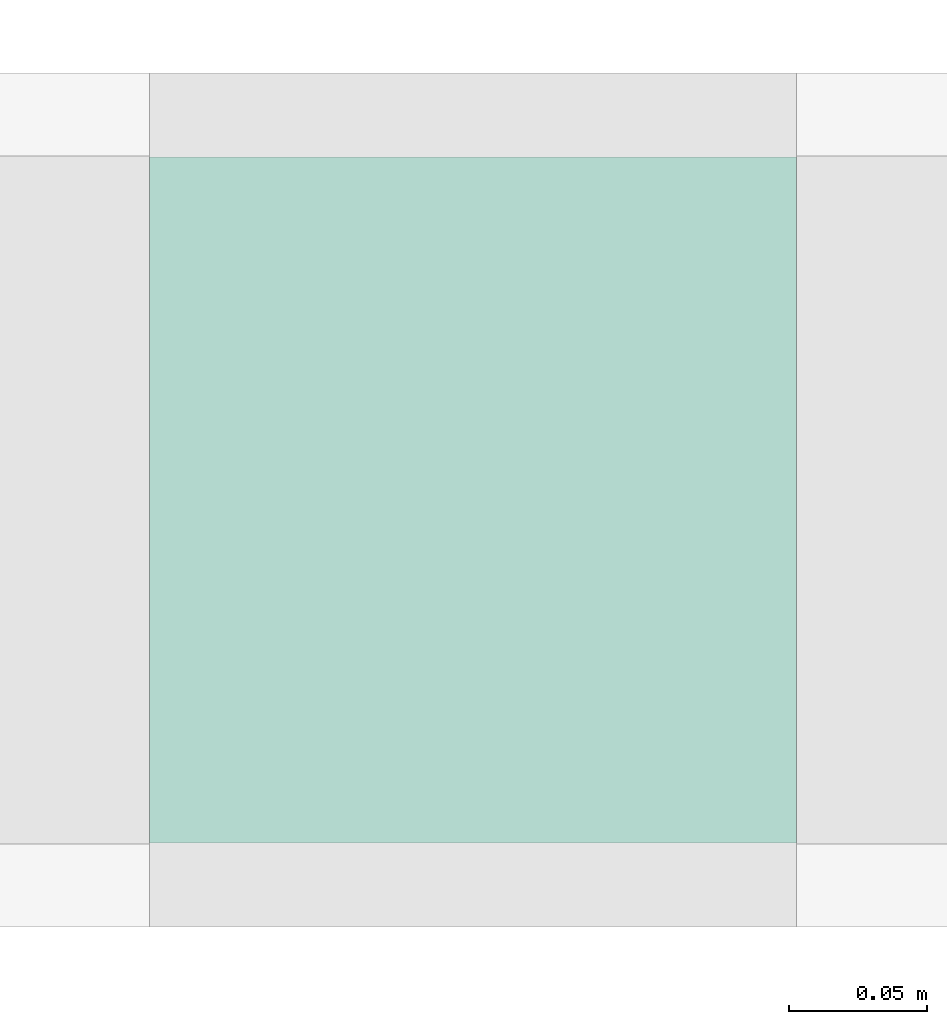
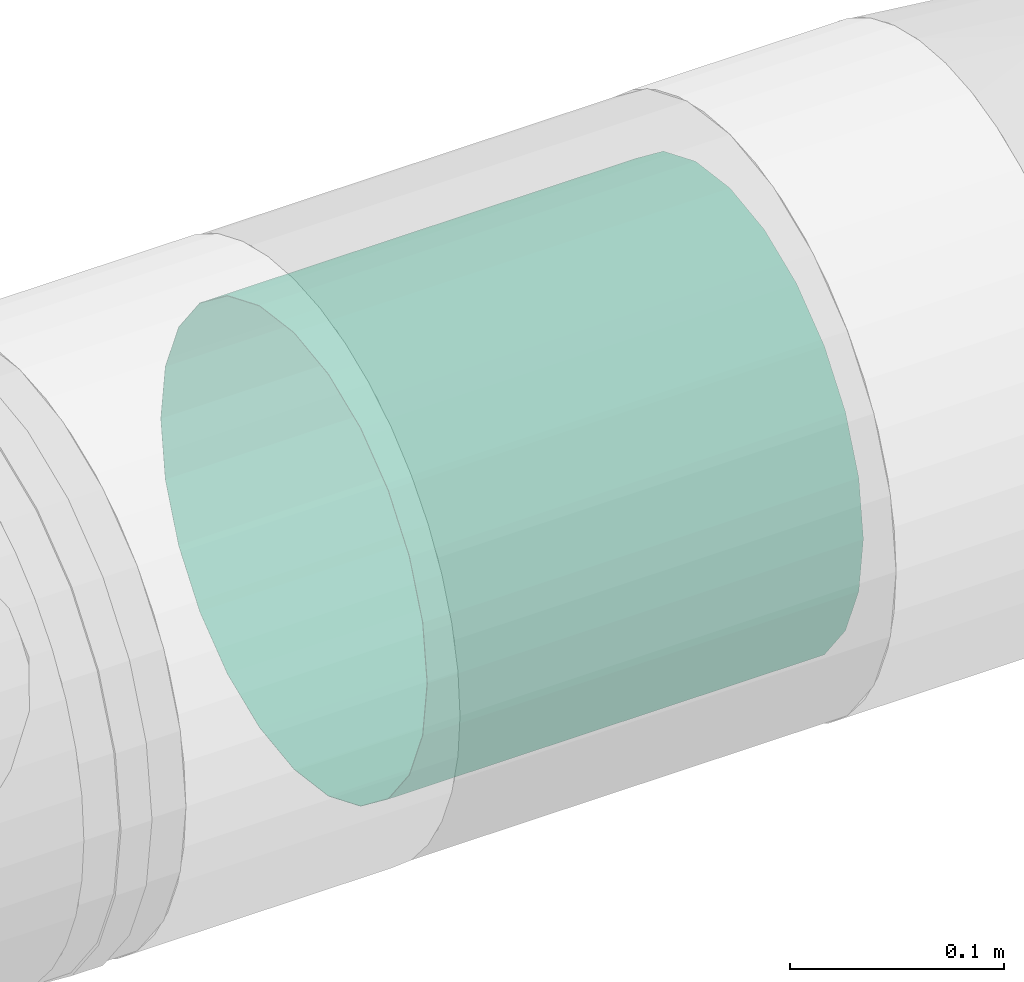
# One storey, part 19 of 21: 1 flow controller.
"""IFC2X3 building model written with IfcOpenShell, lengths in millimetres."""

from ifc_helpers import new_model, entity, si_unit, converted_unit, derived_unit, direction, frame, origin_with_axes, place, context, subcontext, project, spatial, open_shell, surface_model, source, transform, mapped, type_object, element, save


model = new_model("IFC2X3")

# Units and contexts
model_context = context("Model", 3, precision=0.01, world=frame((0.0, 4.29681676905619e-09, 0.0)), true_north=direction((4.01073788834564e-13, 1.0)))
plan_context = context("Plan", 3, precision=0.01, world=frame((0.0, 4.29681676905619e-09, 0.0)), true_north=direction((4.01073788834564e-13, 1.0)))
body_context = subcontext(model_context, "Body", "Model", "MODEL_VIEW")
ifc_project = project(units=[converted_unit("PLANEANGLEUNIT", "DEGREE", entity("IfcPositiveLengthMeasure", 0.0174532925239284), si_unit("PLANEANGLEUNIT", "RADIAN"), dimensions=[0, 0, 0, 0, 0, 0, 0]), si_unit("AREAUNIT", "SQUARE_METRE"), si_unit("LENGTHUNIT", "METRE", prefix="MILLI"), si_unit("MASSUNIT", "GRAM", prefix="KILO"), si_unit("POWERUNIT", "WATT"), si_unit("PRESSUREUNIT", "PASCAL"), si_unit("FORCEUNIT", "NEWTON", prefix="KILO"), si_unit("ELECTRICVOLTAGEUNIT", "VOLT"), si_unit("ELECTRICCURRENTUNIT", "AMPERE"), si_unit("THERMODYNAMICTEMPERATUREUNIT", "DEGREE_CELSIUS"), si_unit("TIMEUNIT", "SECOND"), si_unit("VOLUMEUNIT", "CUBIC_METRE"), derived_unit("LINEARVELOCITYUNIT", [(si_unit("LENGTHUNIT", "METRE"), 1), (si_unit("TIMEUNIT", "SECOND"), -1)]), derived_unit("VOLUMETRICFLOWRATEUNIT", [(si_unit("VOLUMEUNIT", "CUBIC_METRE"), 1), (si_unit("TIMEUNIT", "SECOND"), -1)]), derived_unit("THERMALTRANSMITTANCEUNIT", [(si_unit("POWERUNIT", "WATT"), 1), (si_unit("THERMODYNAMICTEMPERATUREUNIT", "KELVIN"), -1), (si_unit("AREAUNIT", "SQUARE_METRE"), -1)]), derived_unit("SOUNDPRESSUREUNIT", [(si_unit("PRESSUREUNIT", "PASCAL"), 1)])], contexts=[model_context, plan_context])

# Site, building, storey
site_placement = place(None, frame((0.0, -4.29681676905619e-09, 0.0), z_axis=(0.0, 0.0, 1.0), x_axis=(1.0, 0.0, 0.0)))
site = spatial("IfcSite", under=ifc_project, at=site_placement, Name="ENGM", CompositionType="ELEMENT")
building_placement = place(site_placement, frame((0.0, 4.29681676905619e-09, 0.0), z_axis=(0.0, 0.0, 1.0), x_axis=(1.0, 0.0, 0.0)))
building = spatial("IfcBuilding", under=site, at=building_placement, Name="TI", CompositionType="ELEMENT")
storey_placement = place(building_placement, frame((0.0, 0.0, 210900.0), z_axis=(0.0, 0.0, 1.0), x_axis=(1.0, 0.0, 0.0)))
storey = spatial("IfcBuildingStorey", under=building, at=storey_placement, Name="Nivå F", CompositionType="ELEMENT", Elevation=210900.0)

# Flow controller
damper_type = type_object("IfcDamperType", Name="CR60-250", PredefinedType="FIREDAMPER")
shared_shape = source(origin_with_axes(), body_context, "Body", "SurfaceModel", [
    surface_model("IfcShellBasedSurfaceModel", [(117.5, 62.25, -107.82016), (117.5, 88.0348, -88.0348), (117.5, 62.15, -107.64695), (117.5, 32.17121, -120.06458), (117.5, 0.0, -124.3), (117.5, 32.22297, -120.25777), (117.5, 0.0, -124.5), (117.5, 87.89337, -87.89337), (117.5, 120.25777, -32.22297), (117.5, 124.3, 0.0), (117.5, 120.06458, -32.17121), (117.5, 124.5, 0.0), (117.5, 107.82016, -62.25), (117.5, 107.64695, -62.15), (117.5, -32.17121, -120.06458), (117.5, -32.22297, -120.25777), (117.5, -62.15, -107.64695), (117.5, -88.0348, -88.0348), (117.5, -62.25, -107.82016), (117.5, -87.89337, -87.89337), (117.5, -107.64695, -62.15), (117.5, -107.82016, -62.25), (117.5, -120.06458, -32.17121), (117.5, -120.25777, -32.22297), (117.5, -124.3, 0.0), (117.5, -124.5, 0.0), (117.5, 120.25777, 32.22297), (117.5, 120.06458, 32.17121), (117.5, 107.64695, 62.15), (117.5, 107.82016, 62.25), (117.5, 87.89337, 87.89337), (117.5, 88.0348, 88.0348), (117.5, 62.25, 107.82016), (117.5, 62.15, 107.64695), (117.5, 32.17121, 120.06458), (117.5, 32.22297, 120.25777), (117.5, 0.0, 124.3), (117.5, 0.0, 124.5), (117.5, -107.82016, 62.25), (117.5, -107.64695, 62.15), (117.5, -88.0348, 88.0348), (117.5, -87.89337, 87.89337), (117.5, -120.25777, 32.22297), (117.5, -120.06458, 32.17121), (117.5, -32.17121, 120.06458), (117.5, -32.22297, 120.25777), (117.5, -62.15, 107.64695), (117.5, -62.25, 107.82016), (-117.5, 62.25, 107.82016), (-117.5, 88.0348, 88.0348), (-117.5, 62.15, 107.64695), (-117.5, 32.17121, 120.06458), (-117.5, 0.0, 124.3), (-117.5, 32.22297, 120.25777), (-117.5, 0.0, 124.5), (-117.5, 87.89337, 87.89337), (-117.5, 120.25777, 32.22297), (-117.5, 124.3, 0.0), (-117.5, 120.06458, 32.17121), (-117.5, 124.5, 0.0), (-117.5, 107.82016, 62.25), (-117.5, 107.64695, 62.15), (-117.5, -32.17121, 120.06458), (-117.5, -32.22297, 120.25777), (-117.5, -62.15, 107.64695), (-117.5, -88.0348, 88.0348), (-117.5, -62.25, 107.82016), (-117.5, -87.89337, 87.89337), (-117.5, -107.64695, 62.15), (-117.5, -107.82016, 62.25), (-117.5, -120.06458, 32.17121), (-117.5, -120.25777, 32.22297), (-117.5, -124.3, 0.0), (-117.5, -124.5, 0.0), (-117.5, 120.25777, -32.22297), (-117.5, 120.06458, -32.17121), (-117.5, 107.64695, -62.15), (-117.5, 107.82016, -62.25), (-117.5, 87.89337, -87.89337), (-117.5, 88.0348, -88.0348), (-117.5, 62.25, -107.82016), (-117.5, 62.15, -107.64695), (-117.5, 32.17121, -120.06458), (-117.5, 32.22297, -120.25777), (-117.5, 0.0, -124.3), (-117.5, 0.0, -124.5), (-117.5, -107.82016, -62.25), (-117.5, -107.64695, -62.15), (-117.5, -88.0348, -88.0348), (-117.5, -87.89337, -87.89337), (-117.5, -120.25777, -32.22297), (-117.5, -120.06458, -32.17121), (-117.5, -32.17121, -120.06458), (-117.5, -32.22297, -120.25777), (-117.5, -62.15, -107.64695), (-117.5, -62.25, -107.82016)], [open_shell([[[0, 1, 2]], [[0, 2, 3]], [[4, 5, 3]], [[5, 4, 6]], [[3, 5, 0]], [[2, 1, 7]], [[8, 9, 10]], [[9, 8, 11]], [[8, 10, 12]], [[7, 12, 13]], [[12, 7, 1]], [[13, 12, 10]], [[6, 14, 15]], [[15, 14, 16]], [[17, 18, 19]], [[16, 18, 15]], [[16, 19, 18]], [[6, 4, 14]], [[20, 21, 17]], [[21, 20, 22]], [[20, 17, 19]], [[23, 22, 24]], [[22, 23, 21]], [[23, 24, 25]], [[11, 26, 27]], [[27, 26, 28]], [[28, 29, 30]], [[29, 28, 26]], [[30, 29, 31]], [[31, 32, 33]], [[33, 32, 34]], [[34, 35, 36]], [[35, 34, 32]], [[36, 35, 37]], [[33, 30, 31]], [[38, 39, 40]], [[40, 39, 41]], [[39, 38, 42]], [[25, 43, 42]], [[42, 43, 39]], [[25, 24, 43]], [[44, 37, 45]], [[44, 45, 46]], [[41, 47, 40]], [[41, 46, 47]], [[47, 46, 45]], [[36, 37, 44]], [[27, 9, 11]], [[48, 49, 50]], [[48, 50, 51]], [[52, 53, 51]], [[53, 52, 54]], [[51, 53, 48]], [[50, 49, 55]], [[56, 57, 58]], [[57, 56, 59]], [[56, 58, 60]], [[55, 60, 61]], [[60, 55, 49]], [[61, 60, 58]], [[54, 62, 63]], [[63, 62, 64]], [[65, 66, 67]], [[64, 66, 63]], [[64, 67, 66]], [[54, 52, 62]], [[68, 69, 65]], [[69, 68, 70]], [[68, 65, 67]], [[71, 70, 72]], [[70, 71, 69]], [[71, 72, 73]], [[59, 74, 75]], [[75, 74, 76]], [[76, 77, 78]], [[77, 76, 74]], [[78, 77, 79]], [[79, 80, 81]], [[81, 80, 82]], [[82, 83, 84]], [[83, 82, 80]], [[84, 83, 85]], [[81, 78, 79]], [[86, 87, 88]], [[88, 87, 89]], [[87, 86, 90]], [[73, 91, 90]], [[90, 91, 87]], [[73, 72, 91]], [[92, 85, 93]], [[92, 93, 94]], [[89, 95, 88]], [[89, 94, 95]], [[95, 94, 93]], [[84, 85, 92]], [[75, 57, 59]], [[23, 90, 86]], [[88, 21, 86]], [[18, 95, 93]], [[88, 95, 17]], [[15, 93, 85]], [[90, 25, 73]], [[90, 23, 25]], [[86, 21, 23]], [[88, 17, 21]], [[18, 17, 95]], [[93, 15, 18]], [[85, 6, 15]], [[5, 83, 80]], [[79, 0, 80]], [[12, 77, 74]], [[79, 77, 1]], [[8, 74, 59]], [[83, 5, 6]], [[80, 0, 5]], [[79, 1, 0]], [[77, 12, 1]], [[8, 12, 74]], [[59, 11, 8]], [[83, 6, 85]], [[59, 56, 26]], [[32, 48, 53]], [[48, 31, 49]], [[54, 35, 53]], [[59, 26, 11]], [[26, 56, 60]], [[26, 60, 29]], [[60, 49, 29]], [[49, 31, 29]], [[32, 31, 48]], [[53, 35, 32]], [[54, 37, 35]], [[45, 63, 66]], [[65, 47, 66]], [[38, 69, 71]], [[65, 69, 40]], [[42, 71, 73]], [[63, 45, 37]], [[66, 47, 45]], [[65, 40, 47]], [[69, 38, 40]], [[42, 38, 71]], [[73, 25, 42]], [[63, 37, 54]], [[87, 91, 22]], [[87, 20, 89]], [[92, 94, 16]], [[19, 94, 89]], [[84, 92, 14]], [[72, 24, 91]], [[24, 22, 91]], [[22, 20, 87]], [[20, 19, 89]], [[94, 19, 16]], [[16, 14, 92]], [[14, 4, 84]], [[81, 82, 3]], [[81, 2, 78]], [[75, 76, 13]], [[7, 76, 78]], [[57, 75, 10]], [[4, 3, 82]], [[3, 2, 81]], [[2, 7, 78]], [[7, 13, 76]], [[75, 13, 10]], [[10, 9, 57]], [[84, 4, 82]], [[27, 58, 57]], [[51, 50, 33]], [[55, 30, 50]], [[51, 34, 52]], [[9, 27, 57]], [[61, 58, 27]], [[28, 61, 27]], [[28, 55, 61]], [[28, 30, 55]], [[50, 30, 33]], [[33, 34, 51]], [[34, 36, 52]], [[64, 62, 44]], [[64, 46, 67]], [[70, 68, 39]], [[41, 68, 67]], [[72, 70, 43]], [[36, 44, 62]], [[44, 46, 64]], [[46, 41, 67]], [[41, 39, 68]], [[70, 39, 43]], [[43, 24, 72]], [[52, 36, 62]]])]),
])
flow_controller_placement = place(storey_placement, frame((609085.78329, 692765.29135, 2600.0), z_axis=(0.0, 0.0, 1.0), x_axis=(1.0, 0.0, 0.0)))
element("IfcFlowController", 1, at=flow_controller_placement, inside=storey, type_object=damper_type, Name="CR60-250", context=body_context, shape_type="MappedRepresentation", body=[
    mapped(shared_shape, transform((0.0, 0.0, 0.0), scale=1.0)),
])

save(model, "model.ifc")
